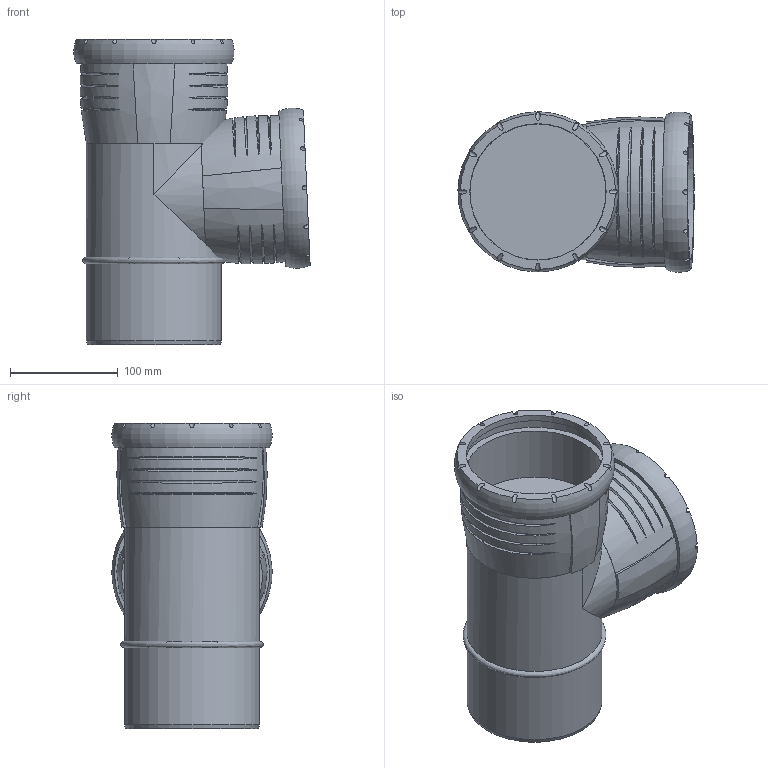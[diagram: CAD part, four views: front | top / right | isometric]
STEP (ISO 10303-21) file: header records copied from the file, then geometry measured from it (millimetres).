
FILE_DESCRIPTION(/* description */ (''),/* implementation_level */ '2;1');
FILE_NAME(/* name */ 'H:\Geberit-Teile\Export\Abzweig PP\stp\393652.stp',/* time_stamp */ '2017-02-13T13:20:44+01:00',/* author */ ('seihe2'),/* organization */ (''),/* preprocessor_version */ 'ST-DEVELOPER v15.2',/* originating_system */ 'Autodesk Inventor 2014',/* authorisation */ '');
FILE_SCHEMA (('AUTOMOTIVE_DESIGN { 1 0 10303 214 3 1 1 }'));
Length unit declared in the file: millimetre
Products named in the file (1): 393652
Bounding box: 218.82 x 148.35 x 282.71 mm (x, y, z)
Volume: 2838907.1 mm3; surface area: 365347.3 mm2
Topology: 5 solids, 5 shells, 109 faces, 253 edges, 178 vertices
Faces by surface type: bspline 45, cylinder 42, plane 19, torus 2, cone 1
Full cylindrical faces by diameter (mm): 95.978 x2, 115.2 x1, 125.2 x3, 126 x2, 126.4 x2, 138.1 x2
Entity records: 7654 total; most frequent: CARTESIAN_POINT 5410, ORIENTED_EDGE 462, DIRECTION 347, EDGE_CURVE 230, AXIS2_PLACEMENT_3D 173, VERTEX_POINT 171, EDGE_LOOP 151, B_SPLINE_CURVE_WITH_KNOTS 120
